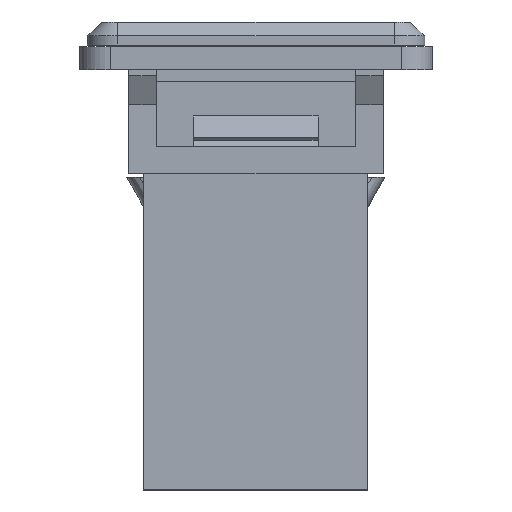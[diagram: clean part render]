
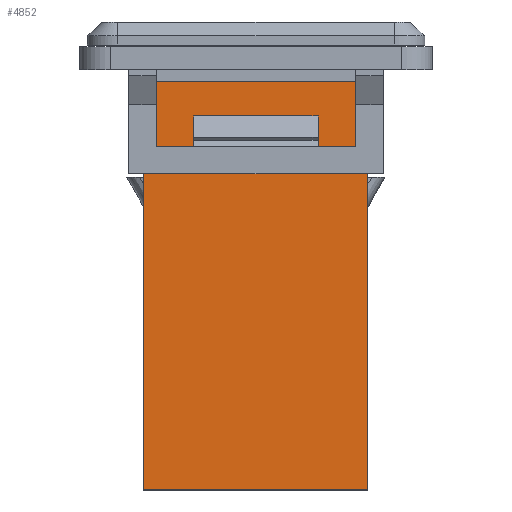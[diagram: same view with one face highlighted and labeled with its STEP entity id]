
A CAD part, left-side view. The second image highlights one B-rep face of the part: STEP entity #4852.
In plain terms, the highlighted free-form (B-spline) face has degree [1, 1] with [2, 2] control points.
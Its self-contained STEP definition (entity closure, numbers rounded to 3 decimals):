
#3989 = VERTEX_POINT('',#3990);
#3990 = CARTESIAN_POINT('',(0.,0.,0.));
#4013 = VERTEX_POINT('',#4014);
#4014 = CARTESIAN_POINT('',(0.,14.624,0.));
#4023 = EDGE_CURVE('',#3989,#4013,#4024,.T.);
#4024 = B_SPLINE_CURVE_WITH_KNOTS('',5,(#4025,#4026,#4027,#4028,#4029,
    #4030),.UNSPECIFIED.,.F.,.F.,(6,6),(0.,14.624),
  .PIECEWISE_BEZIER_KNOTS.);
#4025 = CARTESIAN_POINT('',(0.,0.,0.));
#4026 = CARTESIAN_POINT('',(0.,2.925,0.));
#4027 = CARTESIAN_POINT('',(0.,5.85,0.));
#4028 = CARTESIAN_POINT('',(0.,8.775,0.));
#4029 = CARTESIAN_POINT('',(0.,11.7,0.));
#4030 = CARTESIAN_POINT('',(0.,14.624,0.));
#4314 = EDGE_CURVE('',#4315,#3989,#4317,.T.);
#4315 = VERTEX_POINT('',#4316);
#4316 = CARTESIAN_POINT('',(30.,0.,0.));
#4317 = B_SPLINE_CURVE_WITH_KNOTS('',5,(#4318,#4319,#4320,#4321,#4322,
    #4323),.UNSPECIFIED.,.F.,.F.,(6,6),(0.,30.),
  .PIECEWISE_BEZIER_KNOTS.);
#4318 = CARTESIAN_POINT('',(30.,0.,0.));
#4319 = CARTESIAN_POINT('',(24.,0.,0.));
#4320 = CARTESIAN_POINT('',(18.,0.,0.));
#4321 = CARTESIAN_POINT('',(12.,0.,0.));
#4322 = CARTESIAN_POINT('',(6.,0.,0.));
#4323 = CARTESIAN_POINT('',(0.,0.,0.));
#4712 = EDGE_CURVE('',#4713,#4013,#4715,.T.);
#4713 = VERTEX_POINT('',#4714);
#4714 = CARTESIAN_POINT('',(30.,14.624,0.));
#4715 = B_SPLINE_CURVE_WITH_KNOTS('',5,(#4716,#4717,#4718,#4719,#4720,
    #4721),.UNSPECIFIED.,.F.,.F.,(6,6),(0.,30.),
  .PIECEWISE_BEZIER_KNOTS.);
#4716 = CARTESIAN_POINT('',(30.,14.624,0.));
#4717 = CARTESIAN_POINT('',(24.,14.624,0.));
#4718 = CARTESIAN_POINT('',(18.,14.624,0.));
#4719 = CARTESIAN_POINT('',(12.,14.624,0.));
#4720 = CARTESIAN_POINT('',(6.,14.624,0.));
#4721 = CARTESIAN_POINT('',(0.,14.624,0.));
#4852 = ADVANCED_FACE('',(#4853,#4867,#4913),#4959,.T.);
#4853 = FACE_BOUND('',#4854,.T.);
#4854 = EDGE_LOOP('',(#4855,#4856,#4857,#4858));
#4855 = ORIENTED_EDGE('',*,*,#4314,.T.);
#4856 = ORIENTED_EDGE('',*,*,#4023,.T.);
#4857 = ORIENTED_EDGE('',*,*,#4712,.F.);
#4858 = ORIENTED_EDGE('',*,*,#4859,.F.);
#4859 = EDGE_CURVE('',#4315,#4713,#4860,.T.);
#4860 = B_SPLINE_CURVE_WITH_KNOTS('',5,(#4861,#4862,#4863,#4864,#4865,
    #4866),.UNSPECIFIED.,.F.,.F.,(6,6),(0.,14.624),
  .PIECEWISE_BEZIER_KNOTS.);
#4861 = CARTESIAN_POINT('',(30.,0.,0.));
#4862 = CARTESIAN_POINT('',(30.,2.925,0.));
#4863 = CARTESIAN_POINT('',(30.,5.85,0.));
#4864 = CARTESIAN_POINT('',(30.,8.775,0.));
#4865 = CARTESIAN_POINT('',(30.,11.7,0.));
#4866 = CARTESIAN_POINT('',(30.,14.624,0.));
#4867 = FACE_BOUND('',#4868,.T.);
#4868 = EDGE_LOOP('',(#4869,#4882,#4893,#4904));
#4869 = ORIENTED_EDGE('',*,*,#4870,.T.);
#4870 = EDGE_CURVE('',#4871,#4873,#4875,.T.);
#4871 = VERTEX_POINT('',#4872);
#4872 = CARTESIAN_POINT('',(6.556,11.369,
    0.));
#4873 = VERTEX_POINT('',#4874);
#4874 = CARTESIAN_POINT('',(6.556,3.256,0.));
#4875 = B_SPLINE_CURVE_WITH_KNOTS('',5,(#4876,#4877,#4878,#4879,#4880,
    #4881),.UNSPECIFIED.,.F.,.F.,(6,6),(0.,8.113),
  .PIECEWISE_BEZIER_KNOTS.);
#4876 = CARTESIAN_POINT('',(6.556,11.369,
    0.));
#4877 = CARTESIAN_POINT('',(6.556,9.746,
    0.));
#4878 = CARTESIAN_POINT('',(6.556,8.124,
    0.));
#4879 = CARTESIAN_POINT('',(6.556,6.501,
    0.));
#4880 = CARTESIAN_POINT('',(6.556,4.878,
    0.));
#4881 = CARTESIAN_POINT('',(6.556,3.256,
    0.));
#4882 = ORIENTED_EDGE('',*,*,#4883,.T.);
#4883 = EDGE_CURVE('',#4873,#4884,#4886,.T.);
#4884 = VERTEX_POINT('',#4885);
#4885 = CARTESIAN_POINT('',(8.139,3.256,0.));
#4886 = B_SPLINE_CURVE_WITH_KNOTS('',5,(#4887,#4888,#4889,#4890,#4891,
    #4892),.UNSPECIFIED.,.F.,.F.,(6,6),(0.,1.583),
  .PIECEWISE_BEZIER_KNOTS.);
#4887 = CARTESIAN_POINT('',(6.556,3.256,
    0.));
#4888 = CARTESIAN_POINT('',(6.872,3.256,
    0.));
#4889 = CARTESIAN_POINT('',(7.189,3.256,
    0.));
#4890 = CARTESIAN_POINT('',(7.505,3.256,
    0.));
#4891 = CARTESIAN_POINT('',(7.822,3.256,
    0.));
#4892 = CARTESIAN_POINT('',(8.139,3.256,
    0.));
#4893 = ORIENTED_EDGE('',*,*,#4894,.T.);
#4894 = EDGE_CURVE('',#4884,#4895,#4897,.T.);
#4895 = VERTEX_POINT('',#4896);
#4896 = CARTESIAN_POINT('',(8.139,11.369,
    0.));
#4897 = B_SPLINE_CURVE_WITH_KNOTS('',5,(#4898,#4899,#4900,#4901,#4902,
    #4903),.UNSPECIFIED.,.F.,.F.,(6,6),(0.,8.113),
  .PIECEWISE_BEZIER_KNOTS.);
#4898 = CARTESIAN_POINT('',(8.139,3.256,
    0.));
#4899 = CARTESIAN_POINT('',(8.139,4.878,
    0.));
#4900 = CARTESIAN_POINT('',(8.139,6.501,
    0.));
#4901 = CARTESIAN_POINT('',(8.139,8.124,
    0.));
#4902 = CARTESIAN_POINT('',(8.139,9.746,
    0.));
#4903 = CARTESIAN_POINT('',(8.139,11.369,
    0.));
#4904 = ORIENTED_EDGE('',*,*,#4905,.T.);
#4905 = EDGE_CURVE('',#4895,#4871,#4906,.T.);
#4906 = B_SPLINE_CURVE_WITH_KNOTS('',5,(#4907,#4908,#4909,#4910,#4911,
    #4912),.UNSPECIFIED.,.F.,.F.,(6,6),(0.,1.583),
  .PIECEWISE_BEZIER_KNOTS.);
#4907 = CARTESIAN_POINT('',(8.139,11.369,
    0.));
#4908 = CARTESIAN_POINT('',(7.822,11.369,
    0.));
#4909 = CARTESIAN_POINT('',(7.505,11.369,
    0.));
#4910 = CARTESIAN_POINT('',(7.189,11.369,
    0.));
#4911 = CARTESIAN_POINT('',(6.872,11.369,
    0.));
#4912 = CARTESIAN_POINT('',(6.556,11.369,
    0.));
#4913 = FACE_BOUND('',#4914,.T.);
#4914 = EDGE_LOOP('',(#4915,#4928,#4939,#4950));
#4915 = ORIENTED_EDGE('',*,*,#4916,.T.);
#4916 = EDGE_CURVE('',#4917,#4919,#4921,.T.);
#4917 = VERTEX_POINT('',#4918);
#4918 = CARTESIAN_POINT('',(5.957,3.256,0.));
#4919 = VERTEX_POINT('',#4920);
#4920 = CARTESIAN_POINT('',(5.957,11.369,
    0.));
#4921 = B_SPLINE_CURVE_WITH_KNOTS('',5,(#4922,#4923,#4924,#4925,#4926,
    #4927),.UNSPECIFIED.,.F.,.F.,(6,6),(0.,8.113),
  .PIECEWISE_BEZIER_KNOTS.);
#4922 = CARTESIAN_POINT('',(5.957,3.256,
    0.));
#4923 = CARTESIAN_POINT('',(5.957,4.878,
    0.));
#4924 = CARTESIAN_POINT('',(5.957,6.501,
    0.));
#4925 = CARTESIAN_POINT('',(5.957,8.124,
    0.));
#4926 = CARTESIAN_POINT('',(5.957,9.746,
    0.));
#4927 = CARTESIAN_POINT('',(5.957,11.369,
    0.));
#4928 = ORIENTED_EDGE('',*,*,#4929,.T.);
#4929 = EDGE_CURVE('',#4919,#4930,#4932,.T.);
#4930 = VERTEX_POINT('',#4931);
#4931 = CARTESIAN_POINT('',(5.609,11.369,
    0.));
#4932 = B_SPLINE_CURVE_WITH_KNOTS('',5,(#4933,#4934,#4935,#4936,#4937,
    #4938),.UNSPECIFIED.,.F.,.F.,(6,6),(0.,0.348),
  .PIECEWISE_BEZIER_KNOTS.);
#4933 = CARTESIAN_POINT('',(5.957,11.369,
    0.));
#4934 = CARTESIAN_POINT('',(5.888,11.369,
    0.));
#4935 = CARTESIAN_POINT('',(5.818,11.369,
    0.));
#4936 = CARTESIAN_POINT('',(5.749,11.369,
    0.));
#4937 = CARTESIAN_POINT('',(5.679,11.369,
    0.));
#4938 = CARTESIAN_POINT('',(5.609,11.369,
    0.));
#4939 = ORIENTED_EDGE('',*,*,#4940,.T.);
#4940 = EDGE_CURVE('',#4930,#4941,#4943,.T.);
#4941 = VERTEX_POINT('',#4942);
#4942 = CARTESIAN_POINT('',(5.609,3.256,0.));
#4943 = B_SPLINE_CURVE_WITH_KNOTS('',5,(#4944,#4945,#4946,#4947,#4948,
    #4949),.UNSPECIFIED.,.F.,.F.,(6,6),(0.,8.113),
  .PIECEWISE_BEZIER_KNOTS.);
#4944 = CARTESIAN_POINT('',(5.609,11.369,
    0.));
#4945 = CARTESIAN_POINT('',(5.609,9.746,
    0.));
#4946 = CARTESIAN_POINT('',(5.609,8.124,
    0.));
#4947 = CARTESIAN_POINT('',(5.609,6.501,
    0.));
#4948 = CARTESIAN_POINT('',(5.609,4.878,
    0.));
#4949 = CARTESIAN_POINT('',(5.609,3.256,
    0.));
#4950 = ORIENTED_EDGE('',*,*,#4951,.T.);
#4951 = EDGE_CURVE('',#4941,#4917,#4952,.T.);
#4952 = B_SPLINE_CURVE_WITH_KNOTS('',5,(#4953,#4954,#4955,#4956,#4957,
    #4958),.UNSPECIFIED.,.F.,.F.,(6,6),(0.,0.348),
  .PIECEWISE_BEZIER_KNOTS.);
#4953 = CARTESIAN_POINT('',(5.609,3.256,
    0.));
#4954 = CARTESIAN_POINT('',(5.679,3.256,
    0.));
#4955 = CARTESIAN_POINT('',(5.749,3.256,
    0.));
#4956 = CARTESIAN_POINT('',(5.818,3.256,
    0.));
#4957 = CARTESIAN_POINT('',(5.888,3.256,
    0.));
#4958 = CARTESIAN_POINT('',(5.957,3.256,
    0.));
#4959 = B_SPLINE_SURFACE_WITH_KNOTS('',1,1,(
    (#4960,#4961)
    ,(#4962,#4963
    )),.UNSPECIFIED.,.F.,.F.,.F.,(2,2),(2,2),(0.,2.051),(0.,1.),
  .PIECEWISE_BEZIER_KNOTS.);
#4960 = CARTESIAN_POINT('',(30.,0.,0.)
  );
#4961 = CARTESIAN_POINT('',(30.,14.624,0.));
#4962 = CARTESIAN_POINT('',(0.,0.,0.)
  );
#4963 = CARTESIAN_POINT('',(0.,14.624,0.));
